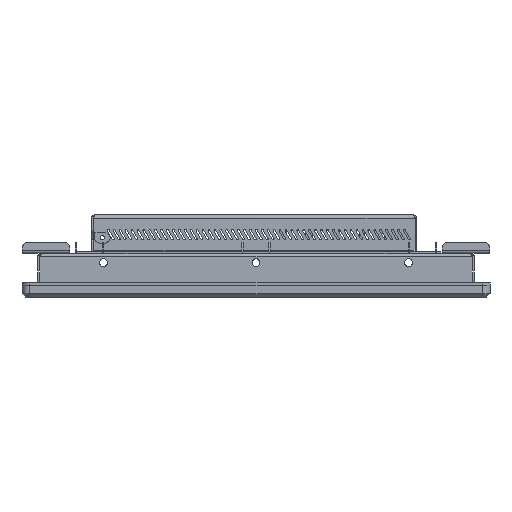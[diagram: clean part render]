
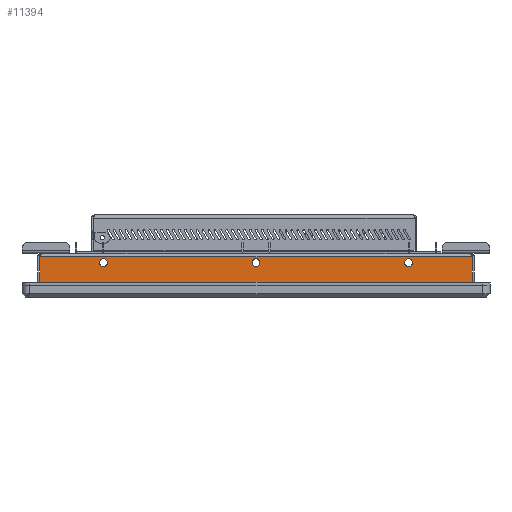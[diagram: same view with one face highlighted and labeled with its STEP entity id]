
A CAD part, left-side view. The second image highlights one B-rep face of the part: STEP entity #11394.
In plain terms, the highlighted planar face has unit normal (-1, 0, 0).
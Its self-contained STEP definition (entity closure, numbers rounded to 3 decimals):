
#11394=ADVANCED_FACE('',(#41485,#41487,#41489,#41491),#41493,.T.);
#41485=FACE_BOUND('',#41486,.T.);
#41486=EDGE_LOOP('',(#66757,#66758,#66759,#66760));
#41487=FACE_BOUND('',#41488,.T.);
#41488=EDGE_LOOP('',(#66761));
#41489=FACE_BOUND('',#41490,.T.);
#41490=EDGE_LOOP('',(#66762));
#41491=FACE_BOUND('',#41492,.T.);
#41492=EDGE_LOOP('',(#66763));
#41493=PLANE('',#41494);
#41494=AXIS2_PLACEMENT_3D('',#41495,#41496,#41497);
#41495=CARTESIAN_POINT('',(-166.4,-116.15,472.196));
#41496=DIRECTION('',(-1.,0.,0.));
#41497=DIRECTION('',(0.,0.,-1.));
#66757=ORIENTED_EDGE('',*,*,#81668,.F.);
#66758=ORIENTED_EDGE('',*,*,#83461,.T.);
#66759=ORIENTED_EDGE('',*,*,#83462,.T.);
#66760=ORIENTED_EDGE('',*,*,#83463,.T.);
#66761=ORIENTED_EDGE('',*,*,#83464,.T.);
#66762=ORIENTED_EDGE('',*,*,#83465,.T.);
#66763=ORIENTED_EDGE('',*,*,#83466,.T.);
#81668=EDGE_CURVE('',#93391,#93393,#93394,.T.);
#83461=EDGE_CURVE('',#93391,#95820,#95821,.T.);
#83462=EDGE_CURVE('',#95820,#95822,#95823,.T.);
#83463=EDGE_CURVE('',#95822,#93393,#95824,.T.);
#83464=EDGE_CURVE('',#95825,#95825,#95826,.T.);
#83465=EDGE_CURVE('',#95827,#95827,#95828,.T.);
#83466=EDGE_CURVE('',#95829,#95829,#95830,.T.);
#93391=VERTEX_POINT('',#114991);
#93393=VERTEX_POINT('',#115007);
#93394=LINE('',#115008,#115009);
#95820=VERTEX_POINT('',#121679);
#95821=LINE('',#121680,#121681);
#95822=VERTEX_POINT('',#121683);
#95823=LINE('',#121684,#121685);
#95824=LINE('',#121687,#121688);
#95825=VERTEX_POINT('',#121690);
#95826=CIRCLE('',#121691,3.05);
#95827=VERTEX_POINT('',#121695);
#95828=CIRCLE('',#121696,3.05);
#95829=VERTEX_POINT('',#121700);
#95830=CIRCLE('',#121701,3.05);
#114991=CARTESIAN_POINT('',(-166.4,221.596,47.5));
#115007=CARTESIAN_POINT('',(-166.4,-115.596,47.5));
#115008=CARTESIAN_POINT('',(-166.4,221.596,47.5));
#115009=VECTOR('',#115010,1.);
#115010=DIRECTION('',(0.,-1.,0.));
#121679=CARTESIAN_POINT('',(-166.4,221.596,27.5));
#121680=CARTESIAN_POINT('',(-166.4,221.596,47.5));
#121681=VECTOR('',#121682,1.);
#121682=DIRECTION('',(0.,0.,-1.));
#121683=CARTESIAN_POINT('',(-166.4,-115.596,27.5));
#121684=CARTESIAN_POINT('',(-166.4,221.596,27.5));
#121685=VECTOR('',#121686,1.);
#121686=DIRECTION('',(0.,-1.,0.));
#121687=CARTESIAN_POINT('',(-166.4,-115.596,27.5));
#121688=VECTOR('',#121689,1.);
#121689=DIRECTION('',(0.,0.,1.));
#121690=CARTESIAN_POINT('',(-166.4,175.05,42.8));
#121691=AXIS2_PLACEMENT_3D('',#121692,#121693,#121694);
#121692=CARTESIAN_POINT('',(-166.4,172.,42.8));
#121693=DIRECTION('',(1.,0.,0.));
#121694=DIRECTION('',(0.,1.,0.));
#121695=CARTESIAN_POINT('',(-166.4,56.05,42.8));
#121696=AXIS2_PLACEMENT_3D('',#121697,#121698,#121699);
#121697=CARTESIAN_POINT('',(-166.4,53.,42.8));
#121698=DIRECTION('',(1.,0.,0.));
#121699=DIRECTION('',(0.,1.,0.));
#121700=CARTESIAN_POINT('',(-166.4,-62.95,42.8));
#121701=AXIS2_PLACEMENT_3D('',#121702,#121703,#121704);
#121702=CARTESIAN_POINT('',(-166.4,-66.,42.8));
#121703=DIRECTION('',(1.,0.,0.));
#121704=DIRECTION('',(0.,1.,0.));
